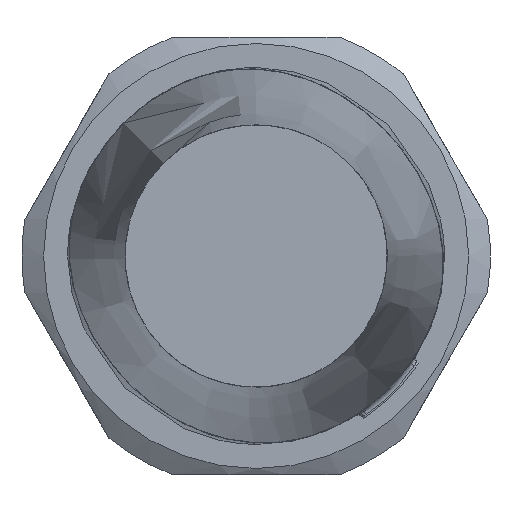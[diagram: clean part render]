
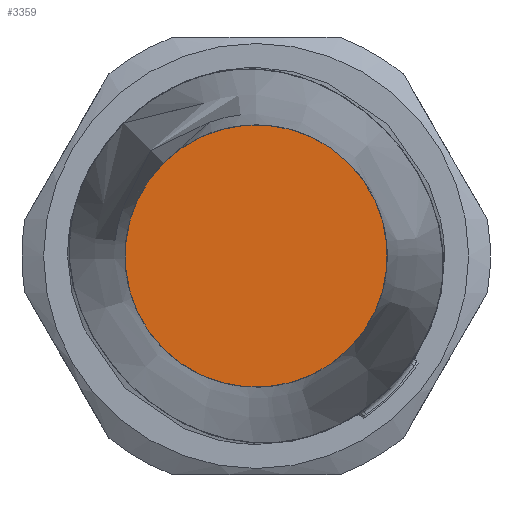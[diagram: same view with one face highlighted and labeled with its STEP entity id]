
A CAD part, front view. The second image highlights one B-rep face of the part: STEP entity #3359.
In plain terms, the highlighted planar face has unit normal (0, -1, 0).
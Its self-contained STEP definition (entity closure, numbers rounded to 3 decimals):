
#591 = AXIS2_PLACEMENT_3D ( 'NONE', #631, #2942, #1477 ) ;
#630 = EDGE_CURVE ( 'NONE', #2951, #2951, #1874, .T. ) ;
#631 = CARTESIAN_POINT ( 'NONE',  ( 0., -60.087, 0. ) ) ;
#707 = AXIS2_PLACEMENT_3D ( 'NONE', #2482, #956, #2134 ) ;
#956 = DIRECTION ( 'NONE',  ( 0., -1., 0. ) ) ;
#1225 = FACE_OUTER_BOUND ( 'NONE', #1391, .T. ) ;
#1391 = EDGE_LOOP ( 'NONE', ( #3803 ) ) ;
#1477 = DIRECTION ( 'NONE',  ( 0.707, 0., -0.707 ) ) ;
#1826 = CARTESIAN_POINT ( 'NONE',  ( 2.97, -60.087, -2.97 ) ) ;
#1874 = CIRCLE ( 'NONE', #591, 4.2 ) ;
#2134 = DIRECTION ( 'NONE',  ( -1., 0., 0. ) ) ;
#2482 = CARTESIAN_POINT ( 'NONE',  ( 0., -60.087, 0. ) ) ;
#2923 = PLANE ( 'NONE',  #707 ) ;
#2942 = DIRECTION ( 'NONE',  ( 0., -1., 0. ) ) ;
#2951 = VERTEX_POINT ( 'NONE', #1826 ) ;
#3359 = ADVANCED_FACE ( 'NONE', ( #1225 ), #2923, .T. ) ;
#3803 = ORIENTED_EDGE ( 'NONE', *, *, #630, .T. ) ;
